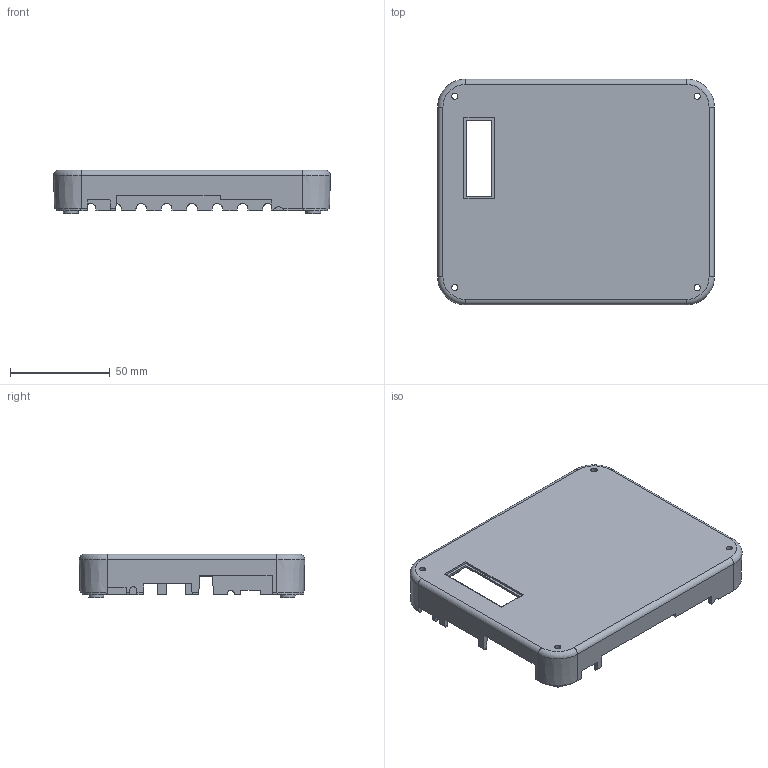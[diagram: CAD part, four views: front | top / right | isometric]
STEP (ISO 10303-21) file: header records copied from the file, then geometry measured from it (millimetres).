
FILE_DESCRIPTION(/* description */ (''),/* implementation_level */ '2;1');
FILE_NAME(/* name */ '/Users/d4/Downloads/stm32 v0.7b v68 top.step',/* time_stamp */ '2020-01-22T10:32:58+00:00',/* author */ (''),/* organization */ (''),/* preprocessor_version */ 'ST-DEVELOPER v18',/* originating_system */ 'Autodesk Translation Framework v8.12.0.6',/* authorisation */ '');
FILE_SCHEMA (('AUTOMOTIVE_DESIGN { 1 0 10303 214 3 1 1 }'));
Length unit declared in the file: millimetre
Products named in the file (3): stm32 v0.7b; proto3; top_case
Assembly tree (2 placements, depth 3):
  stm32 v0.7b
    proto3
      top_case
Bounding box: 138.73 x 113.07 x 21.9 mm (x, y, z)
Volume: 50770 mm3; surface area: 47196.9 mm2
Topology: 1 solids, 1 shells, 190 faces, 540 edges, 357 vertices
Faces by surface type: plane 146, cylinder 20, cone 20, torus 4
Entity records: 6375 total; most frequent: CARTESIAN_POINT 1242, ORIENTED_EDGE 1080, DIRECTION 1036, EDGE_CURVE 540, LINE 422, VECTOR 422, VERTEX_POINT 357, AXIS2_PLACEMENT_3D 307
